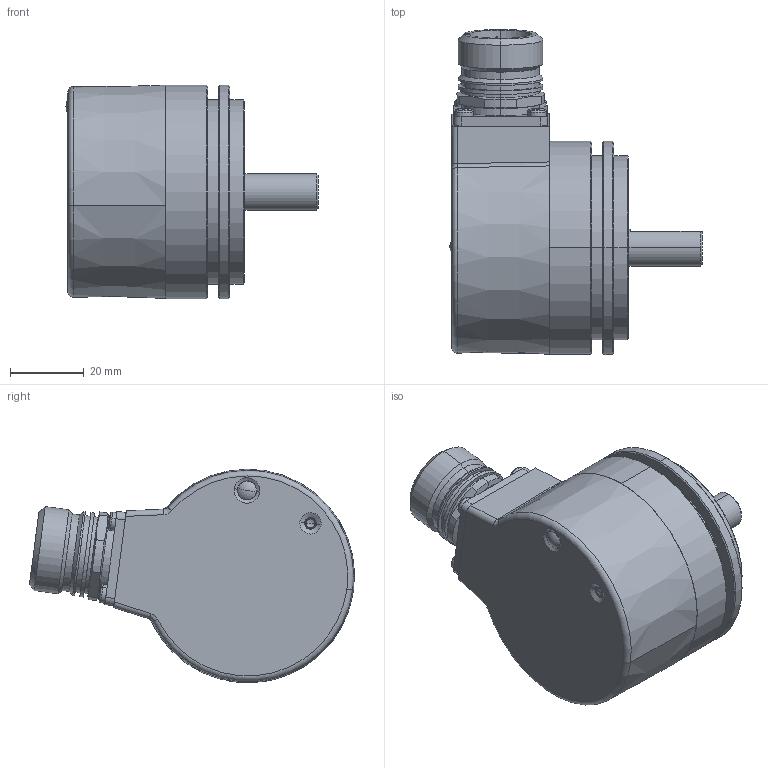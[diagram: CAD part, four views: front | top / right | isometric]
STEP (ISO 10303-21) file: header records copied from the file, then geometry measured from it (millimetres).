
FILE_DESCRIPTION (( 'STEP AP214' ), '1' );
FILE_NAME ('5853.2224.XXXX.STEP', '2008-05-28T05:46:40', ( 'admin' ), ( 'Fritz Kübler GmbH' ), 'SwSTEP 2.0', 'SolidWorks 2007', '' );
FILE_SCHEMA (( 'AUTOMOTIVE_DESIGN' ));
Length unit declared in the file: millimetre
Products named in the file (1): 5853.2224.XXXX
Bounding box: 68.52 x 88.3 x 58 mm (x, y, z)
Surface area: 23291 mm2 (no closed solid volume)
Topology: 0 solids, 33 shells, 327 faces, 850 edges, 542 vertices
Faces by surface type: cylinder 133, plane 89, cone 39, sphere 36, torus 26, bspline 4
Entity records: 13713 total; most frequent: DIRECTION 1960, CARTESIAN_POINT 1900, ORIENTED_EDGE 1490, AXIS2_PLACEMENT_3D 834, EDGE_CURVE 826, VERTEX_POINT 542, CIRCLE 510, EDGE_LOOP 376
